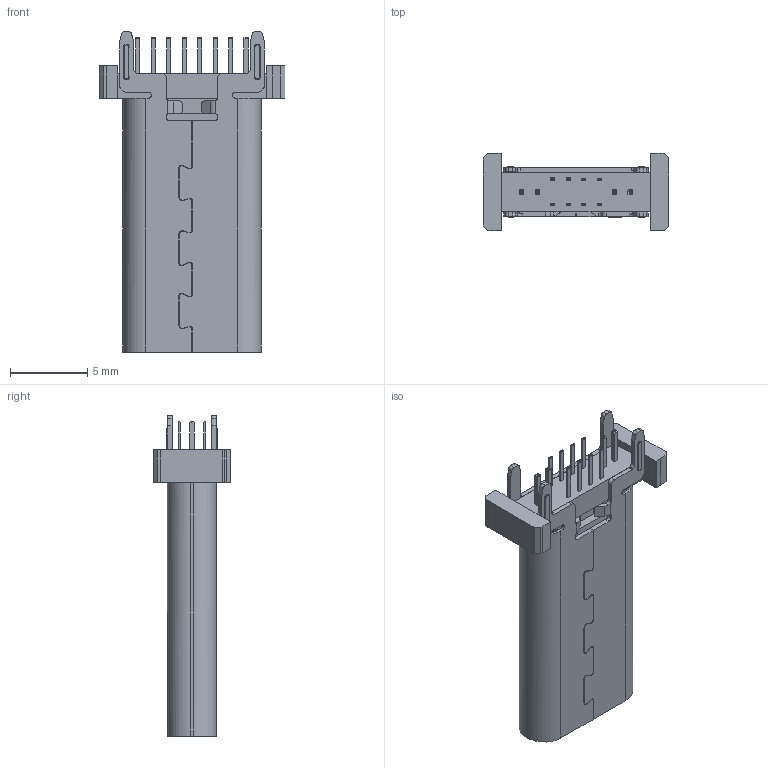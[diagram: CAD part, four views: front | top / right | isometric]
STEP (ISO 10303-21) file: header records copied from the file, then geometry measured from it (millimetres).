
FILE_DESCRIPTION((''),'2;1');
FILE_NAME('PRT0001','2024-10-25T',('WYH'),(''),'PRO/ENGINEER BY PARAMETRIC TECHNOLOGY CORPORATION, 2013040','PRO/ENGINEER BY PARAMETRIC TECHNOLOGY CORPORATION, 2013040','');
FILE_SCHEMA(('CONFIG_CONTROL_DESIGN'));
Length unit declared in the file: millimetre
Products named in the file (1): PRT0001
Bounding box: 12.01 x 5.03 x 20.7 mm (x, y, z)
Volume: 407.7 mm3; surface area: 889.3 mm2
Topology: 1 solids, 10 shells, 628 faces, 1772 edges, 1179 vertices
Faces by surface type: plane 469, cylinder 132, cone 19, torus 8
Entity records: 20374 total; most frequent: CARTESIAN_POINT 3864, ORIENTED_EDGE 3544, DIRECTION 3283, EDGE_CURVE 1772, VECTOR 1401, LINE 1401, VERTEX_POINT 1179, AXIS2_PLACEMENT_3D 941
